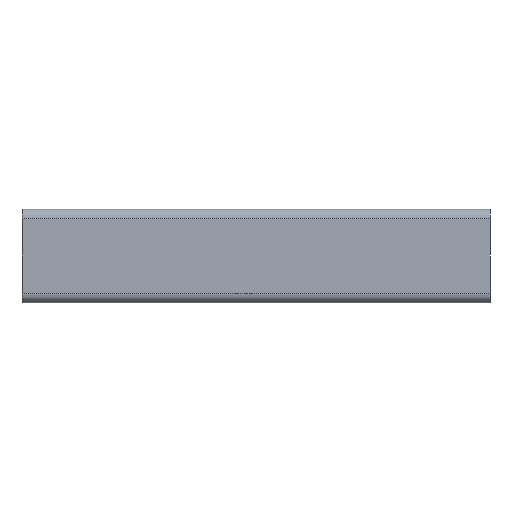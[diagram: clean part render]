
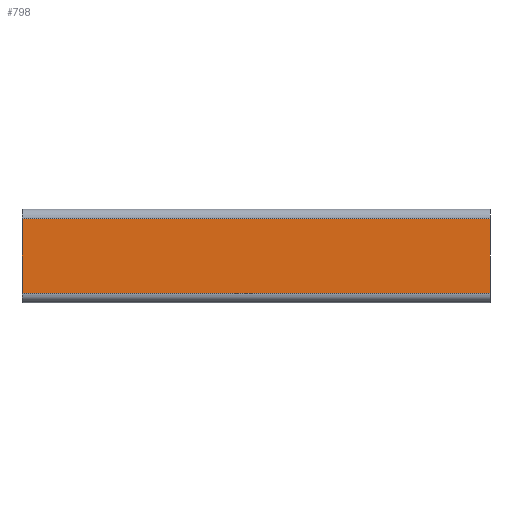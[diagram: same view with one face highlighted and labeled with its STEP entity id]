
A CAD part, left-side view. The second image highlights one B-rep face of the part: STEP entity #798.
In plain terms, the highlighted planar face has unit normal (-1, 0, 0).
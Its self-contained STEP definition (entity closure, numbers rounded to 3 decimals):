
#142 = CARTESIAN_POINT ( 'NONE',  ( -10., 50., 8. ) ) ;
#293 = AXIS2_PLACEMENT_3D ( 'NONE', #2446, #574, #1406 ) ;
#294 = VECTOR ( 'NONE', #746, 1000. ) ;
#295 = VECTOR ( 'NONE', #2512, 1000. ) ;
#353 = FACE_OUTER_BOUND ( 'NONE', #2705, .T. ) ;
#416 = VECTOR ( 'NONE', #581, 1000. ) ;
#525 = LINE ( 'NONE', #2199, #2040 ) ;
#574 = DIRECTION ( 'NONE',  ( 1., 0., 0. ) ) ;
#581 = DIRECTION ( 'NONE',  ( 0., 0., 1. ) ) ;
#592 = VERTEX_POINT ( 'NONE', #2564 ) ;
#609 = LINE ( 'NONE', #2006, #416 ) ;
#727 = EDGE_CURVE ( 'NONE', #592, #1498, #1177, .T. ) ;
#746 = DIRECTION ( 'NONE',  ( 0., -1., 0. ) ) ;
#798 = ADVANCED_FACE ( 'NONE', ( #353 ), #1803, .F. ) ;
#837 = ORIENTED_EDGE ( 'NONE', *, *, #2163, .T. ) ;
#845 = LINE ( 'NONE', #2085, #295 ) ;
#1177 = LINE ( 'NONE', #142, #294 ) ;
#1184 = ORIENTED_EDGE ( 'NONE', *, *, #1535, .T. ) ;
#1273 = VERTEX_POINT ( 'NONE', #1521 ) ;
#1406 = DIRECTION ( 'NONE',  ( 0., 0., -1. ) ) ;
#1498 = VERTEX_POINT ( 'NONE', #1848 ) ;
#1521 = CARTESIAN_POINT ( 'NONE',  ( -10., -50., -8. ) ) ;
#1535 = EDGE_CURVE ( 'NONE', #1778, #1273, #845, .T. ) ;
#1536 = DIRECTION ( 'NONE',  ( 0., 0., 1. ) ) ;
#1778 = VERTEX_POINT ( 'NONE', #1833 ) ;
#1803 = PLANE ( 'NONE',  #293 ) ;
#1833 = CARTESIAN_POINT ( 'NONE',  ( -10., 50., -8. ) ) ;
#1848 = CARTESIAN_POINT ( 'NONE',  ( -10., -50., 8. ) ) ;
#2006 = CARTESIAN_POINT ( 'NONE',  ( -10., -50., -8. ) ) ;
#2020 = EDGE_CURVE ( 'NONE', #1778, #592, #525, .T. ) ;
#2040 = VECTOR ( 'NONE', #1536, 1000. ) ;
#2085 = CARTESIAN_POINT ( 'NONE',  ( -10., 50., -8. ) ) ;
#2163 = EDGE_CURVE ( 'NONE', #1273, #1498, #609, .T. ) ;
#2199 = CARTESIAN_POINT ( 'NONE',  ( -10., 50., -8. ) ) ;
#2327 = ORIENTED_EDGE ( 'NONE', *, *, #727, .F. ) ;
#2446 = CARTESIAN_POINT ( 'NONE',  ( -10., 50., -8. ) ) ;
#2512 = DIRECTION ( 'NONE',  ( 0., -1., 0. ) ) ;
#2564 = CARTESIAN_POINT ( 'NONE',  ( -10., 50., 8. ) ) ;
#2659 = ORIENTED_EDGE ( 'NONE', *, *, #2020, .F. ) ;
#2705 = EDGE_LOOP ( 'NONE', ( #837, #2327, #2659, #1184 ) ) ;
